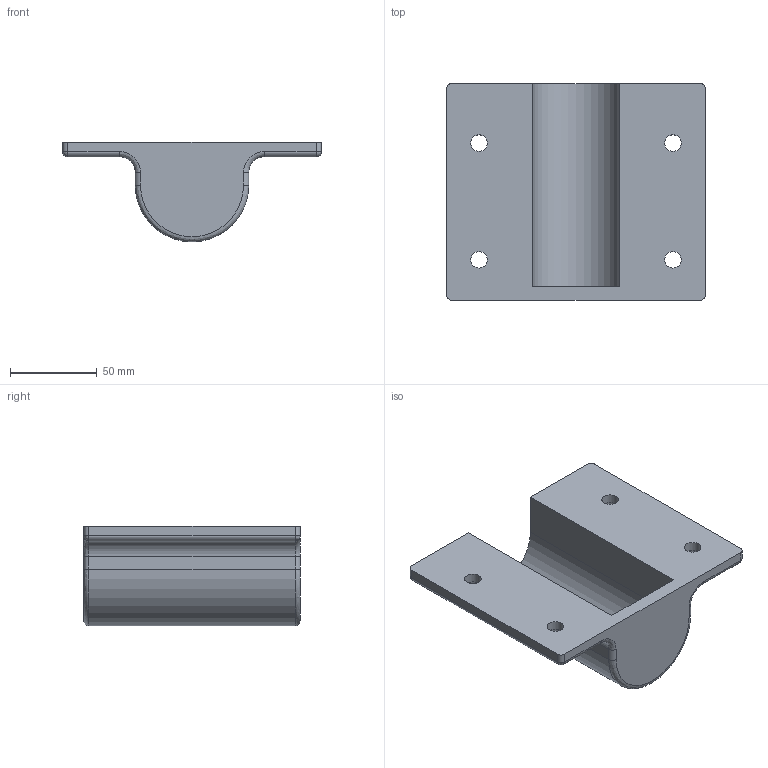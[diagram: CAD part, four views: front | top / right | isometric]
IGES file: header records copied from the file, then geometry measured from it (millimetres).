
Start section: SolidWorks IGES file using analytic representation for surfaces
Global section: file name: D:\Praca\Zlecenia prywatne\Konrad Izdebski Evergrip\KIE_018 Elementy z³¹czne\Dokumentacja\IGES\KIE_018.A15.IGS; native system: SolidWorks 2023; preprocessor: SolidWorks 2023; author: patry; date: 250122.210146; units: millimetre
Bounding box: 149 x 124.5 x 57.4 mm (x, y, z)
Surface area: 63843.1 mm2 (no closed solid volume)
Topology: 0 solids, 0 shells, 223 faces, 1174 edges, 1162 vertices
Faces by surface type: bspline 187, revolution 36
